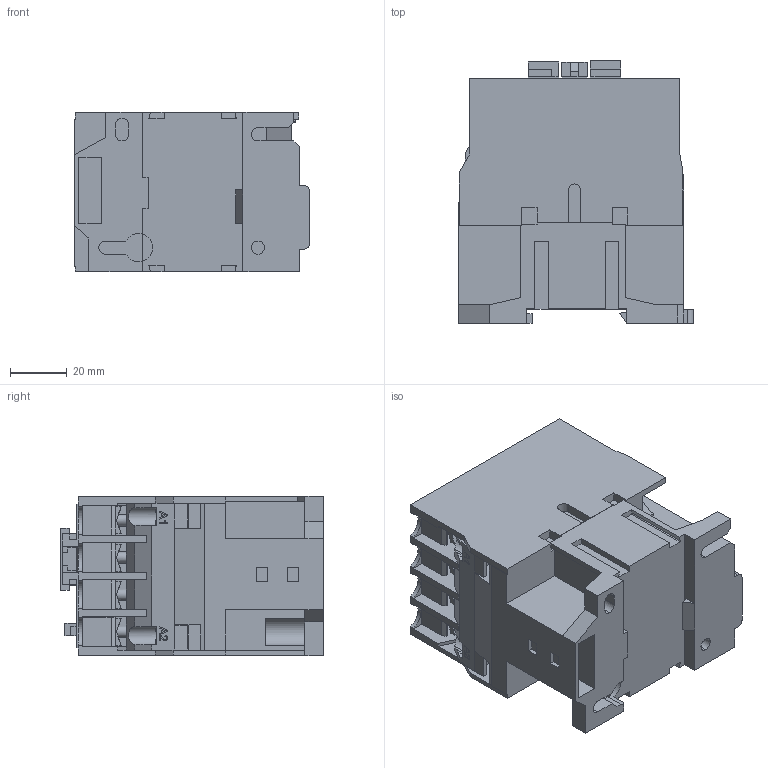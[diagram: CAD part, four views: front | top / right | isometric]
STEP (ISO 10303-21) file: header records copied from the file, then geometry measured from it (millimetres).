
FILE_DESCRIPTION (( 'STEP AP214' ), '1' );
FILE_NAME ('3d_ﾏﾌﾋ-2100(1).STEP', '2023-01-21T10:38:22', ( '' ), ( '' ), 'SwSTEP 2.0', 'SolidWorks 2018', '' );
FILE_SCHEMA (( 'AUTOMOTIVE_DESIGN' ));
Length unit declared in the file: millimetre
Products named in the file (1): 3d_ﾏﾌﾋ-2100(1)
Bounding box: 83 x 92.8 x 56.5 mm (x, y, z)
Volume: 292691.5 mm3; surface area: 57129.3 mm2
Topology: 1 solids, 1 shells, 726 faces, 2032 edges, 1340 vertices
Faces by surface type: plane 551, cylinder 127, bspline 30, cone 16, torus 2
Entity records: 24564 total; most frequent: CARTESIAN_POINT 6093, ORIENTED_EDGE 4064, DIRECTION 3466, EDGE_CURVE 2032, LINE 1624, VECTOR 1624, VERTEX_POINT 1340, AXIS2_PLACEMENT_3D 921
